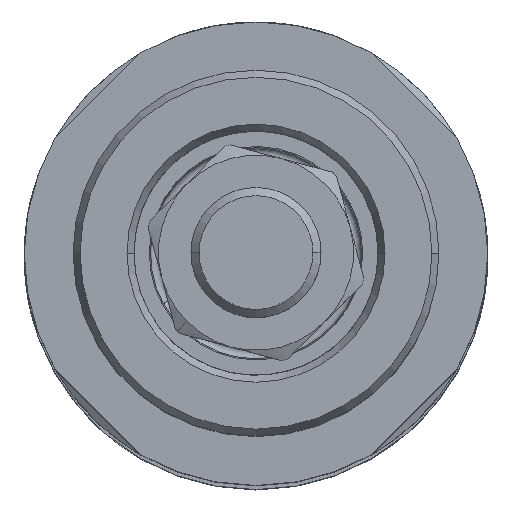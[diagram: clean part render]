
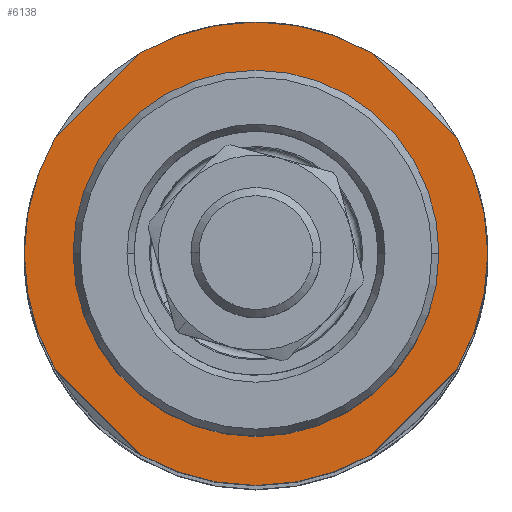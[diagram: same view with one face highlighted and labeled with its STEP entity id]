
A CAD part, top view. The second image highlights one B-rep face of the part: STEP entity #6138.
In plain terms, the highlighted planar face has unit normal (0, 0, 1).
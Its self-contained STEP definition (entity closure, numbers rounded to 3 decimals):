
#39 = CARTESIAN_POINT ( 'NONE',  ( 0., 0., 90. ) ) ;
#117 = CARTESIAN_POINT ( 'NONE',  ( 0., 0., 90. ) ) ;
#120 = FACE_OUTER_BOUND ( 'NONE', #3655, .T. ) ;
#122 = AXIS2_PLACEMENT_3D ( 'NONE', #1614, #291, #3499 ) ;
#152 = CARTESIAN_POINT ( 'NONE',  ( 0., 0., 90. ) ) ;
#167 = AXIS2_PLACEMENT_3D ( 'NONE', #152, #5782, #7655 ) ;
#276 = AXIS2_PLACEMENT_3D ( 'NONE', #3365, #6436, #5257 ) ;
#291 = DIRECTION ( 'NONE',  ( 0., 0., -1. ) ) ;
#443 = AXIS2_PLACEMENT_3D ( 'NONE', #5406, #2956, #7333 ) ;
#476 = CARTESIAN_POINT ( 'NONE',  ( 24.737, -14.154, 90. ) ) ;
#485 = CIRCLE ( 'NONE', #6692, 22.5 ) ;
#550 = VERTEX_POINT ( 'NONE', #1198 ) ;
#662 = DIRECTION ( 'NONE',  ( 0., 0., -1. ) ) ;
#669 = CIRCLE ( 'NONE', #3559, 22.5 ) ;
#838 = ORIENTED_EDGE ( 'NONE', *, *, #6282, .F. ) ;
#883 = CIRCLE ( 'NONE', #167, 28.5 ) ;
#1041 = ORIENTED_EDGE ( 'NONE', *, *, #2684, .F. ) ;
#1056 = CIRCLE ( 'NONE', #6805, 28.5 ) ;
#1198 = CARTESIAN_POINT ( 'NONE',  ( 28.5, 0., 90. ) ) ;
#1314 = VERTEX_POINT ( 'NONE', #2437 ) ;
#1421 = ORIENTED_EDGE ( 'NONE', *, *, #4065, .F. ) ;
#1581 = PLANE ( 'NONE',  #122 ) ;
#1582 = EDGE_CURVE ( 'NONE', #4694, #7971, #669, .T. ) ;
#1614 = CARTESIAN_POINT ( 'NONE',  ( 0., 0., 90. ) ) ;
#1670 = CARTESIAN_POINT ( 'NONE',  ( -22.5, 0., 90. ) ) ;
#1703 = EDGE_CURVE ( 'NONE', #3560, #3420, #6194, .T. ) ;
#1792 = VECTOR ( 'NONE', #5342, 1000. ) ;
#1824 = EDGE_LOOP ( 'NONE', ( #3561, #1041 ) ) ;
#2037 = DIRECTION ( 'NONE',  ( 0.707, -0.707, 0. ) ) ;
#2066 = CARTESIAN_POINT ( 'NONE',  ( 0., 0., 90. ) ) ;
#2086 = CARTESIAN_POINT ( 'NONE',  ( 19.445, -19.445, 90. ) ) ;
#2135 = VERTEX_POINT ( 'NONE', #3201 ) ;
#2244 = ORIENTED_EDGE ( 'NONE', *, *, #7855, .F. ) ;
#2354 = VERTEX_POINT ( 'NONE', #476 ) ;
#2433 = DIRECTION ( 'NONE',  ( -1., 0., 0. ) ) ;
#2437 = CARTESIAN_POINT ( 'NONE',  ( 14.154, -24.737, 90. ) ) ;
#2598 = DIRECTION ( 'NONE',  ( -1., 0., 0. ) ) ;
#2684 = EDGE_CURVE ( 'NONE', #7971, #4694, #485, .T. ) ;
#2703 = CIRCLE ( 'NONE', #6643, 28.5 ) ;
#2709 = CARTESIAN_POINT ( 'NONE',  ( 14.154, 24.737, 90. ) ) ;
#2768 = CARTESIAN_POINT ( 'NONE',  ( -24.737, -14.154, 90. ) ) ;
#2956 = DIRECTION ( 'NONE',  ( 0., 0., -1. ) ) ;
#2961 = VECTOR ( 'NONE', #6405, 1000. ) ;
#3139 = DIRECTION ( 'NONE',  ( 0., 0., 1. ) ) ;
#3201 = CARTESIAN_POINT ( 'NONE',  ( 24.737, 14.154, 90. ) ) ;
#3229 = LINE ( 'NONE', #6581, #1792 ) ;
#3232 = CARTESIAN_POINT ( 'NONE',  ( -14.154, -24.737, 90. ) ) ;
#3365 = CARTESIAN_POINT ( 'NONE',  ( 0., 0., 90. ) ) ;
#3368 = CARTESIAN_POINT ( 'NONE',  ( 19.445, 19.445, 90. ) ) ;
#3420 = VERTEX_POINT ( 'NONE', #2709 ) ;
#3499 = DIRECTION ( 'NONE',  ( -1., 0., 0. ) ) ;
#3559 = AXIS2_PLACEMENT_3D ( 'NONE', #117, #3139, #2598 ) ;
#3560 = VERTEX_POINT ( 'NONE', #6680 ) ;
#3561 = ORIENTED_EDGE ( 'NONE', *, *, #1582, .F. ) ;
#3655 = EDGE_LOOP ( 'NONE', ( #2244, #7692, #1421, #6841, #4793, #838, #4063, #5267, #4033, #6990 ) ) ;
#3669 = AXIS2_PLACEMENT_3D ( 'NONE', #39, #662, #5000 ) ;
#3670 = EDGE_CURVE ( 'NONE', #550, #2354, #883, .T. ) ;
#4033 = ORIENTED_EDGE ( 'NONE', *, *, #7387, .T. ) ;
#4063 = ORIENTED_EDGE ( 'NONE', *, *, #7348, .T. ) ;
#4065 = EDGE_CURVE ( 'NONE', #1314, #5979, #1056, .T. ) ;
#4114 = VERTEX_POINT ( 'NONE', #5468 ) ;
#4204 = EDGE_CURVE ( 'NONE', #4373, #5979, #6585, .T. ) ;
#4334 = EDGE_CURVE ( 'NONE', #1314, #2354, #4600, .T. ) ;
#4373 = VERTEX_POINT ( 'NONE', #2768 ) ;
#4600 = LINE ( 'NONE', #2086, #2961 ) ;
#4663 = CARTESIAN_POINT ( 'NONE',  ( -28.5, 0., 90. ) ) ;
#4694 = VERTEX_POINT ( 'NONE', #1670 ) ;
#4713 = VECTOR ( 'NONE', #2037, 1000. ) ;
#4793 = ORIENTED_EDGE ( 'NONE', *, *, #3670, .F. ) ;
#5000 = DIRECTION ( 'NONE',  ( -1., 0., 0. ) ) ;
#5031 = DIRECTION ( 'NONE',  ( 0., 0., -1. ) ) ;
#5116 = DIRECTION ( 'NONE',  ( 0., 0., -1. ) ) ;
#5257 = DIRECTION ( 'NONE',  ( -1., 0., 0. ) ) ;
#5267 = ORIENTED_EDGE ( 'NONE', *, *, #1703, .F. ) ;
#5342 = DIRECTION ( 'NONE',  ( -0.707, -0.707, 0. ) ) ;
#5406 = CARTESIAN_POINT ( 'NONE',  ( 0., 0., 90. ) ) ;
#5468 = CARTESIAN_POINT ( 'NONE',  ( -24.737, 14.154, 90. ) ) ;
#5782 = DIRECTION ( 'NONE',  ( 0., 0., -1. ) ) ;
#5877 = DIRECTION ( 'NONE',  ( -0.707, 0.707, 0. ) ) ;
#5974 = EDGE_CURVE ( 'NONE', #6616, #4114, #7858, .T. ) ;
#5979 = VERTEX_POINT ( 'NONE', #3232 ) ;
#6138 = ADVANCED_FACE ( 'NONE', ( #120, #7542 ), #1581, .F. ) ;
#6194 = CIRCLE ( 'NONE', #276, 28.5 ) ;
#6263 = CARTESIAN_POINT ( 'NONE',  ( 0., 0., 90. ) ) ;
#6282 = EDGE_CURVE ( 'NONE', #2135, #550, #6737, .T. ) ;
#6355 = VECTOR ( 'NONE', #5877, 1000. ) ;
#6405 = DIRECTION ( 'NONE',  ( 0.707, 0.707, 0. ) ) ;
#6436 = DIRECTION ( 'NONE',  ( 0., 0., -1. ) ) ;
#6581 = CARTESIAN_POINT ( 'NONE',  ( -19.445, 19.445, 90. ) ) ;
#6585 = LINE ( 'NONE', #7022, #4713 ) ;
#6616 = VERTEX_POINT ( 'NONE', #4663 ) ;
#6643 = AXIS2_PLACEMENT_3D ( 'NONE', #2066, #5116, #7725 ) ;
#6680 = CARTESIAN_POINT ( 'NONE',  ( -14.154, 24.737, 90. ) ) ;
#6692 = AXIS2_PLACEMENT_3D ( 'NONE', #6764, #8096, #2433 ) ;
#6737 = CIRCLE ( 'NONE', #443, 28.5 ) ;
#6764 = CARTESIAN_POINT ( 'NONE',  ( 0., 0., 90. ) ) ;
#6805 = AXIS2_PLACEMENT_3D ( 'NONE', #6263, #5031, #7847 ) ;
#6841 = ORIENTED_EDGE ( 'NONE', *, *, #4334, .T. ) ;
#6990 = ORIENTED_EDGE ( 'NONE', *, *, #5974, .F. ) ;
#7022 = CARTESIAN_POINT ( 'NONE',  ( -19.445, -19.445, 90. ) ) ;
#7333 = DIRECTION ( 'NONE',  ( -1., 0., 0. ) ) ;
#7348 = EDGE_CURVE ( 'NONE', #2135, #3420, #8053, .T. ) ;
#7387 = EDGE_CURVE ( 'NONE', #3560, #4114, #3229, .T. ) ;
#7542 = FACE_BOUND ( 'NONE', #1824, .T. ) ;
#7560 = CARTESIAN_POINT ( 'NONE',  ( 22.5, 0., 90. ) ) ;
#7655 = DIRECTION ( 'NONE',  ( -1., 0., 0. ) ) ;
#7692 = ORIENTED_EDGE ( 'NONE', *, *, #4204, .T. ) ;
#7725 = DIRECTION ( 'NONE',  ( -1., 0., 0. ) ) ;
#7847 = DIRECTION ( 'NONE',  ( -1., 0., 0. ) ) ;
#7855 = EDGE_CURVE ( 'NONE', #4373, #6616, #2703, .T. ) ;
#7858 = CIRCLE ( 'NONE', #3669, 28.5 ) ;
#7971 = VERTEX_POINT ( 'NONE', #7560 ) ;
#8053 = LINE ( 'NONE', #3368, #6355 ) ;
#8096 = DIRECTION ( 'NONE',  ( 0., 0., 1. ) ) ;
